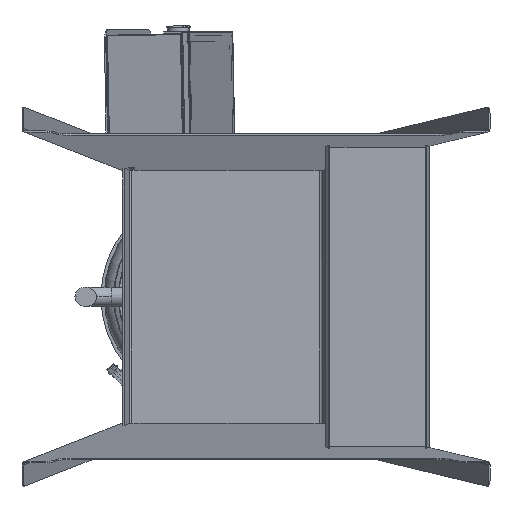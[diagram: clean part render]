
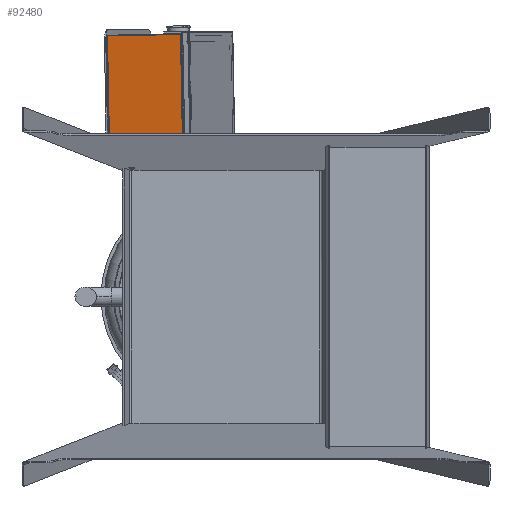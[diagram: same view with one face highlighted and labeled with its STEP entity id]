
A CAD part, front view. The second image highlights one B-rep face of the part: STEP entity #92480.
In plain terms, the highlighted planar face has unit normal (-0.216, -0.977, 0).
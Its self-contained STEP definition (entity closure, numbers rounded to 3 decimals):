
#1384 = LINE ( 'NONE', #203206, #156551 ) ;
#2536 = EDGE_CURVE ( 'NONE', #169413, #276537, #136727, .T. ) ;
#5468 = DIRECTION ( 'NONE',  ( 0.018, -0.004, -1. ) ) ;
#7295 = EDGE_CURVE ( 'NONE', #53220, #169413, #82396, .T. ) ;
#15623 = EDGE_LOOP ( 'NONE', ( #20780, #24083, #145496, #261625, #272788, #196090 ) ) ;
#16138 = DIRECTION ( 'NONE',  ( 0.976, -0.216, 0.019 ) ) ;
#19264 = VERTEX_POINT ( 'NONE', #267790 ) ;
#20780 = ORIENTED_EDGE ( 'NONE', *, *, #124646, .F. ) ;
#23481 = AXIS2_PLACEMENT_3D ( 'NONE', #49185, #26605, #5468 ) ;
#24083 = ORIENTED_EDGE ( 'NONE', *, *, #35971, .F. ) ;
#26571 = CARTESIAN_POINT ( 'NONE',  ( -2.247, 28.78, 20.211 ) ) ;
#26605 = DIRECTION ( 'NONE',  ( 0.216, 0.976, 0. ) ) ;
#35971 = EDGE_CURVE ( 'NONE', #276537, #19264, #1384, .T. ) ;
#36449 = CARTESIAN_POINT ( 'NONE',  ( -7.687, 29.982, 10.499 ) ) ;
#37837 = CARTESIAN_POINT ( 'NONE',  ( -2.252, 28.782, 20.492 ) ) ;
#42174 = VECTOR ( 'NONE', #92151, 39.37 ) ;
#44066 = EDGE_CURVE ( 'NONE', #198406, #53220, #137318, .T. ) ;
#49185 = CARTESIAN_POINT ( 'NONE',  ( -8.498, 30.161, 49.961 ) ) ;
#51975 = CARTESIAN_POINT ( 'NONE',  ( -7.687, 29.982, 10.499 ) ) ;
#53220 = VERTEX_POINT ( 'NONE', #236162 ) ;
#54704 = CARTESIAN_POINT ( 'NONE',  ( -2.075, 28.743, 10.889 ) ) ;
#70666 = DIRECTION ( 'NONE',  ( 0.018, -0.004, -1. ) ) ;
#71811 = PLANE ( 'NONE',  #23481 ) ;
#77243 = AXIS2_PLACEMENT_3D ( 'NONE', #54704, #215765, #146524 ) ;
#82396 = LINE ( 'NONE', #217952, #100277 ) ;
#83808 = AXIS2_PLACEMENT_3D ( 'NONE', #26571, #255395, #261238 ) ;
#92151 = DIRECTION ( 'NONE',  ( -0.018, 0.004, 1. ) ) ;
#92480 = ADVANCED_FACE ( 'Defeatured_15_110', ( #255428 ), #71811, .F. ) ;
#100277 = VECTOR ( 'NONE', #16138, 39.37 ) ;
#103571 = CARTESIAN_POINT ( 'NONE',  ( -2.07, 28.741, 10.608 ) ) ;
#107352 = VECTOR ( 'NONE', #143830, 39.37 ) ;
#124646 = EDGE_CURVE ( 'NONE', #19264, #170667, #274249, .T. ) ;
#136727 = CIRCLE ( 'NONE', #83808, 0.281 ) ;
#137318 = LINE ( 'NONE', #180974, #42174 ) ;
#140857 = LINE ( 'NONE', #51975, #107352 ) ;
#143830 = DIRECTION ( 'NONE',  ( 0.976, -0.216, 0.019 ) ) ;
#145496 = ORIENTED_EDGE ( 'NONE', *, *, #2536, .F. ) ;
#146524 = DIRECTION ( 'NONE',  ( 0.018, -0.004, -1. ) ) ;
#156551 = VECTOR ( 'NONE', #70666, 39.37 ) ;
#169413 = VERTEX_POINT ( 'NONE', #37837 ) ;
#170667 = VERTEX_POINT ( 'NONE', #103571 ) ;
#180974 = CARTESIAN_POINT ( 'NONE',  ( -8.414, 30.143, 49.962 ) ) ;
#196090 = ORIENTED_EDGE ( 'NONE', *, *, #263716, .T. ) ;
#198406 = VERTEX_POINT ( 'NONE', #36449 ) ;
#203206 = CARTESIAN_POINT ( 'NONE',  ( -2.704, 28.882, 50.073 ) ) ;
#215765 = DIRECTION ( 'NONE',  ( 0.216, 0.976, 0. ) ) ;
#217952 = CARTESIAN_POINT ( 'NONE',  ( -7.869, 30.022, 20.383 ) ) ;
#236162 = CARTESIAN_POINT ( 'NONE',  ( -7.869, 30.022, 20.383 ) ) ;
#255395 = DIRECTION ( 'NONE',  ( 0.216, 0.976, 0. ) ) ;
#255428 = FACE_OUTER_BOUND ( 'NONE', #15623, .T. ) ;
#261238 = DIRECTION ( 'NONE',  ( 0.976, -0.216, 0.019 ) ) ;
#261625 = ORIENTED_EDGE ( 'NONE', *, *, #7295, .F. ) ;
#263716 = EDGE_CURVE ( 'NONE', #198406, #170667, #140857, .T. ) ;
#267790 = CARTESIAN_POINT ( 'NONE',  ( -1.978, 28.721, 10.626 ) ) ;
#272788 = ORIENTED_EDGE ( 'NONE', *, *, #44066, .F. ) ;
#274249 = CIRCLE ( 'NONE', #77243, 0.281 ) ;
#276537 = VERTEX_POINT ( 'NONE', #279360 ) ;
#279360 = CARTESIAN_POINT ( 'NONE',  ( -2.159, 28.761, 20.477 ) ) ;
